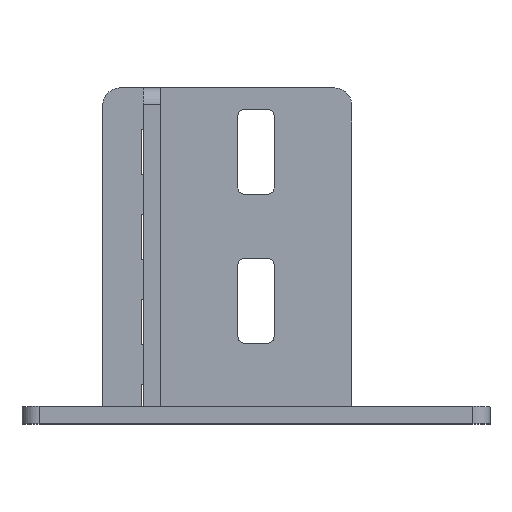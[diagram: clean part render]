
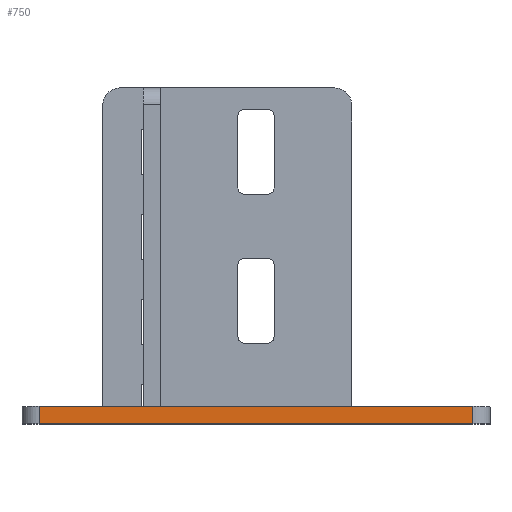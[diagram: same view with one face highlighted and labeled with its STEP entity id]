
A CAD part, top view. The second image highlights one B-rep face of the part: STEP entity #750.
In plain terms, the highlighted planar face has unit normal (0, 0, 1).
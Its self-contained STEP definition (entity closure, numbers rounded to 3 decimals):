
#134 = VERTEX_POINT ( 'NONE', #4063 ) ;
#227 = ORIENTED_EDGE ( 'NONE', *, *, #3871, .T. ) ;
#274 = ORIENTED_EDGE ( 'NONE', *, *, #3446, .F. ) ;
#337 = LINE ( 'NONE', #2562, #1917 ) ;
#424 = VECTOR ( 'NONE', #2717, 1000. ) ;
#533 = VECTOR ( 'NONE', #576, 1000. ) ;
#561 = AXIS2_PLACEMENT_3D ( 'NONE', #2419, #1161, #3366 ) ;
#576 = DIRECTION ( 'NONE',  ( 1., 0., 0. ) ) ;
#731 = LINE ( 'NONE', #1530, #1574 ) ;
#750 = ADVANCED_FACE ( 'NONE', ( #2732 ), #3053, .F. ) ;
#896 = ORIENTED_EDGE ( 'NONE', *, *, #3302, .T. ) ;
#903 = DIRECTION ( 'NONE',  ( 0., -1., 0. ) ) ;
#946 = CARTESIAN_POINT ( 'NONE',  ( 73.878, 4., 68.609 ) ) ;
#1101 = VERTEX_POINT ( 'NONE', #946 ) ;
#1161 = DIRECTION ( 'NONE',  ( 0., 0., -1. ) ) ;
#1284 = CARTESIAN_POINT ( 'NONE',  ( -28.122, 4., 68.609 ) ) ;
#1530 = CARTESIAN_POINT ( 'NONE',  ( -28.122, 4., 68.609 ) ) ;
#1574 = VECTOR ( 'NONE', #903, 1000. ) ;
#1762 = CARTESIAN_POINT ( 'NONE',  ( 73.878, 4., 68.609 ) ) ;
#1917 = VECTOR ( 'NONE', #2880, 1000. ) ;
#2210 = LINE ( 'NONE', #4058, #533 ) ;
#2241 = ORIENTED_EDGE ( 'NONE', *, *, #3170, .F. ) ;
#2419 = CARTESIAN_POINT ( 'NONE',  ( -28.122, 4., 68.609 ) ) ;
#2562 = CARTESIAN_POINT ( 'NONE',  ( -28.122, 4., 68.609 ) ) ;
#2717 = DIRECTION ( 'NONE',  ( 0., -1., 0. ) ) ;
#2732 = FACE_OUTER_BOUND ( 'NONE', #3588, .T. ) ;
#2880 = DIRECTION ( 'NONE',  ( 1., 0., 0. ) ) ;
#3027 = CARTESIAN_POINT ( 'NONE',  ( 73.878, 0., 68.609 ) ) ;
#3034 = LINE ( 'NONE', #1762, #424 ) ;
#3053 = PLANE ( 'NONE',  #561 ) ;
#3170 = EDGE_CURVE ( 'NONE', #1101, #3191, #3034, .T. ) ;
#3191 = VERTEX_POINT ( 'NONE', #3027 ) ;
#3302 = EDGE_CURVE ( 'NONE', #3413, #134, #731, .T. ) ;
#3366 = DIRECTION ( 'NONE',  ( -1., 0., 0. ) ) ;
#3413 = VERTEX_POINT ( 'NONE', #1284 ) ;
#3446 = EDGE_CURVE ( 'NONE', #3413, #1101, #337, .T. ) ;
#3588 = EDGE_LOOP ( 'NONE', ( #227, #2241, #274, #896 ) ) ;
#3871 = EDGE_CURVE ( 'NONE', #134, #3191, #2210, .T. ) ;
#4058 = CARTESIAN_POINT ( 'NONE',  ( -28.122, 0., 68.609 ) ) ;
#4063 = CARTESIAN_POINT ( 'NONE',  ( -28.122, 0., 68.609 ) ) ;
